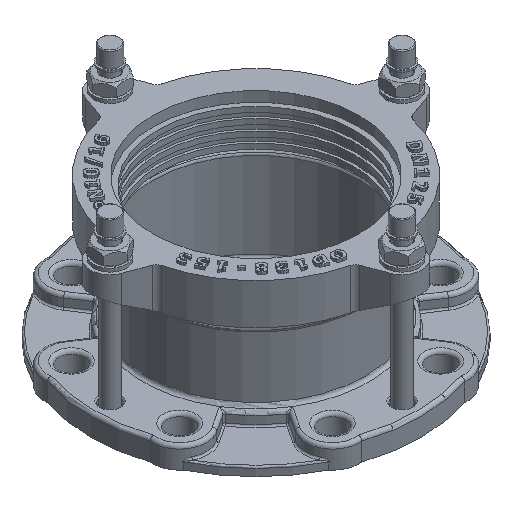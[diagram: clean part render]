
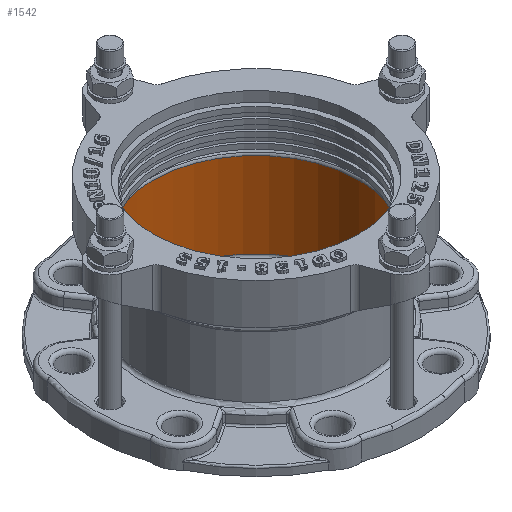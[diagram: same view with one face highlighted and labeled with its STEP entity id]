
A CAD part, isometric view. The second image highlights one B-rep face of the part: STEP entity #1542.
In plain terms, the highlighted cylindrical face has radius 76.5 mm (diameter 153 mm), a full revolution.
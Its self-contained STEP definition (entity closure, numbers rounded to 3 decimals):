
#1542=ADVANCED_FACE('',(#10834,#10836),#10838,.F.);
#10834=FACE_OUTER_BOUND('',#10835,.T.);
#10835=EDGE_LOOP('',(#16586));
#10836=FACE_OUTER_BOUND('',#10837,.T.);
#10837=EDGE_LOOP('',(#16587));
#10838=CYLINDRICAL_SURFACE('',#10839,76.5);
#10839=AXIS2_PLACEMENT_3D('',#10840,#10841,#10842);
#10840=CARTESIAN_POINT('',(0.,0.,3.));
#10841=DIRECTION('',(0.,0.,1.));
#10842=DIRECTION('',(-1.,0.,0.));
#16586=ORIENTED_EDGE('',*,*,#21574,.F.);
#16587=ORIENTED_EDGE('',*,*,#21573,.T.);
#21573=EDGE_CURVE('',#24376,#24376,#24377,.F.);
#21574=EDGE_CURVE('',#24378,#24378,#24379,.T.);
#24376=VERTEX_POINT('',#34249);
#24377=CIRCLE('',#34250,76.5);
#24378=VERTEX_POINT('',#34254);
#24379=CIRCLE('',#34255,76.5);
#34249=CARTESIAN_POINT('',(0.,76.5,5.5));
#34250=AXIS2_PLACEMENT_3D('',#34251,#34252,#34253);
#34251=CARTESIAN_POINT('',(0.,0.,5.5));
#34252=DIRECTION('',(0.,0.,1.));
#34253=DIRECTION('',(0.,1.,0.));
#34254=CARTESIAN_POINT('',(0.,76.5,68.75));
#34255=AXIS2_PLACEMENT_3D('',#34256,#34257,#34258);
#34256=CARTESIAN_POINT('',(0.,0.,68.75));
#34257=DIRECTION('',(0.,0.,-1.));
#34258=DIRECTION('',(0.,1.,0.));
